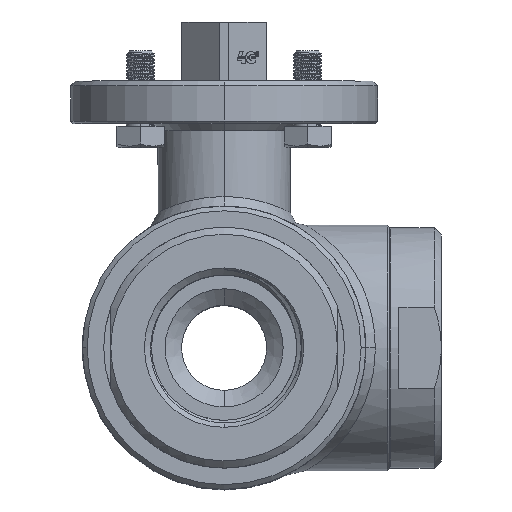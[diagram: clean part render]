
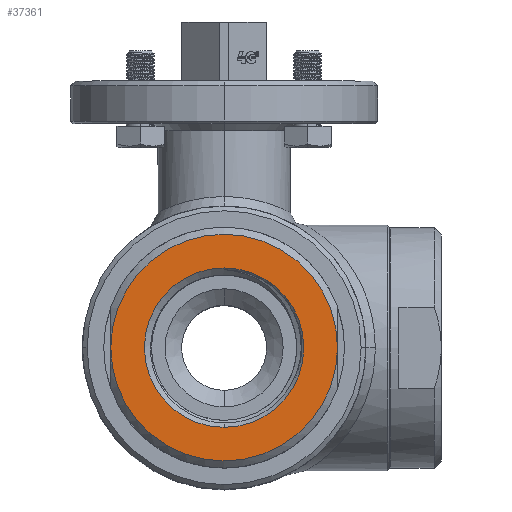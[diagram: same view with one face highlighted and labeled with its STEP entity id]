
A CAD part, top view. The second image highlights one B-rep face of the part: STEP entity #37361.
In plain terms, the highlighted planar face has unit normal (0, 0, 1).
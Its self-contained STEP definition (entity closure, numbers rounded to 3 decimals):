
#4992=CARTESIAN_POINT('',(0.,0.,46.));
#4993=DIRECTION('',(0.,0.,1.));
#4994=DIRECTION('',(-1.,0.,0.));
#4995=AXIS2_PLACEMENT_3D('',#4992,#4993,#4994);
#5009=CARTESIAN_POINT('',(-24.,0.,
46.));
#5042=DIRECTION('',(0.,1.,0.));
#5043=VECTOR('',#5042,0.034);
#5044=CARTESIAN_POINT('',(-24.,0.,
46.));
#5045=LINE('',#5044,#5043);
#5056=CARTESIAN_POINT('',(0.,0.,46.));
#5057=DIRECTION('',(0.,0.,1.));
#5058=DIRECTION('',(1.,0.,0.));
#5059=AXIS2_PLACEMENT_3D('',#5056,#5057,#5058);
#5064=CARTESIAN_POINT('',(0.,0.,46.));
#5065=DIRECTION('',(0.,0.,-1.));
#5066=DIRECTION('',(0.,1.,0.));
#5067=AXIS2_PLACEMENT_3D('',#5064,#5065,#5066);
#5072=CARTESIAN_POINT('',(0.,0.,46.));
#5073=DIRECTION('',(0.,0.,-1.));
#5074=DIRECTION('',(0.,-1.,0.));
#5075=AXIS2_PLACEMENT_3D('',#5072,#5073,#5074);
#5080=DIRECTION('',(0.,-1.,0.));
#5081=VECTOR('',#5080,0.033);
#5082=CARTESIAN_POINT('',(24.,0.,46.));
#5083=LINE('',#5082,#5081);
#5096=CARTESIAN_POINT('',(24.,0.,46.));
#33144=CARTESIAN_POINT('',(0.,16.875,46.));
#33145=CARTESIAN_POINT('',(0.,-16.875,46.));
#33146=VERTEX_POINT('',#33144);
#33147=VERTEX_POINT('',#33145);
#33149=VERTEX_POINT('',#5009);
#33155=VERTEX_POINT('',#5096);
#33436=CARTESIAN_POINT('',(24.,-0.033,46.));
#33437=VERTEX_POINT('',#33436);
#33438=CARTESIAN_POINT('',(-24.,0.034,46.));
#33439=VERTEX_POINT('',#33438);
#37343=CARTESIAN_POINT('',(0.,0.,46.));
#37344=DIRECTION('',(0.,0.,1.));
#37345=DIRECTION('',(0.,1.,0.));
#37346=AXIS2_PLACEMENT_3D('',#37343,#37344,#37345);
#37347=PLANE('',#37346);
#37348=ORIENTED_EDGE('',*,*,#37294,.F.);
#37349=ORIENTED_EDGE('',*,*,#37313,.T.);
#37350=ORIENTED_EDGE('',*,*,#37333,.F.);
#37352=ORIENTED_EDGE('',*,*,#37351,.T.);
#37353=EDGE_LOOP('',(#37348,#37349,#37350,#37352));
#37354=FACE_OUTER_BOUND('',#37353,.F.);
#37356=ORIENTED_EDGE('',*,*,#37355,.F.);
#37358=ORIENTED_EDGE('',*,*,#37357,.F.);
#37359=EDGE_LOOP('',(#37356,#37358));
#37360=FACE_BOUND('',#37359,.F.);
#37361=ADVANCED_FACE('',(#37354,#37360),#37347,.T.);
#4996=CIRCLE('',#4995,24.);
#5060=CIRCLE('',#5059,24.);
#5068=CIRCLE('',#5067,16.875);
#5076=CIRCLE('',#5075,16.875);
#37294=EDGE_CURVE('',#33149,#33437,#4996,.T.);
#37313=EDGE_CURVE('',#33149,#33439,#5045,.T.);
#37333=EDGE_CURVE('',#33155,#33439,#5060,.T.);
#37351=EDGE_CURVE('',#33155,#33437,#5083,.T.);
#37355=EDGE_CURVE('',#33146,#33147,#5068,.T.);
#37357=EDGE_CURVE('',#33147,#33146,#5076,.T.);
